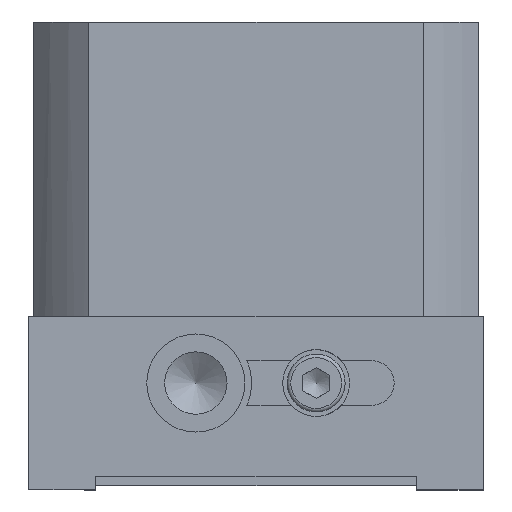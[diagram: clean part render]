
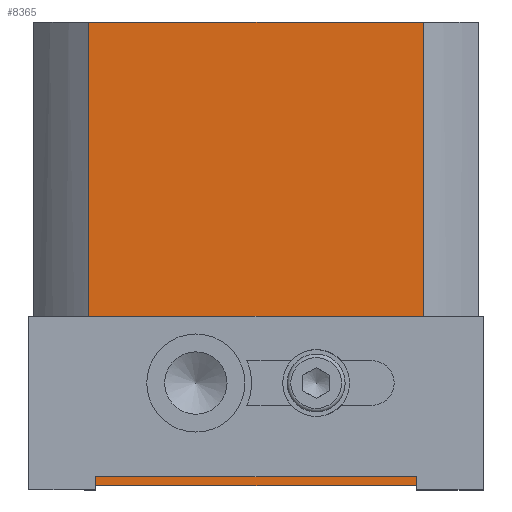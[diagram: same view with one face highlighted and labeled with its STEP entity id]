
A CAD part, left-side view. The second image highlights one B-rep face of the part: STEP entity #8365.
In plain terms, the highlighted planar face has unit normal (-1, 0, 0).
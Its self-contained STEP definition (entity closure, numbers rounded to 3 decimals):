
#1314=CARTESIAN_POINT('',(-50.,63.5,-70.));
#1315=VERTEX_POINT('',#1314);
#1316=CARTESIAN_POINT('',(-50.,63.5,-81.));
#1317=DIRECTION('',(-1.0,0.0,0.0));
#1318=DIRECTION('',(0.0,1.0,0.0));
#1319=AXIS2_PLACEMENT_3D('',#1316,#1317,#1318);
#1320=CIRCLE('',#1319,11.0);
#1321=EDGE_CURVE('',#1315,#1315,#1320,.T.);
#5997=CARTESIAN_POINT('',(-50.,36.5,-70.));
#5998=VERTEX_POINT('',#5997);
#5999=CARTESIAN_POINT('',(-50.,36.5,-81.));
#6000=DIRECTION('',(-1.0,0.0,0.0));
#6001=DIRECTION('',(0.0,-1.0,0.0));
#6002=AXIS2_PLACEMENT_3D('',#5999,#6000,#6001);
#6003=CIRCLE('',#6002,11.0);
#6004=EDGE_CURVE('',#5998,#5998,#6003,.T.);
#6679=CARTESIAN_POINT('',(-50.0,12.5,-104.0));
#6680=VERTEX_POINT('',#6679);
#6688=CARTESIAN_POINT('',(-50.0,87.5,-104.0));
#6689=VERTEX_POINT('',#6688);
#6690=CARTESIAN_POINT('',(-50.,87.5,-104.0));
#6691=DIRECTION('',(0.0,-1.0,0.0));
#6692=VECTOR('',#6691,75.);
#6693=LINE('',#6690,#6692);
#6694=EDGE_CURVE('',#6689,#6680,#6693,.T.);
#7365=CARTESIAN_POINT('',(-50.0,87.5,0.0));
#7366=VERTEX_POINT('',#7365);
#7374=CARTESIAN_POINT('',(-50.0,12.5,0.0));
#7375=VERTEX_POINT('',#7374);
#7376=CARTESIAN_POINT('',(-50.0,87.5,0.0));
#7377=DIRECTION('',(0.0,-1.0,0.0));
#7378=VECTOR('',#7377,75.0);
#7379=LINE('',#7376,#7378);
#7380=EDGE_CURVE('',#7366,#7375,#7379,.T.);
#8243=CARTESIAN_POINT('',(-50.0,12.5,0.0));
#8244=DIRECTION('',(0.0,0.0,-1.0));
#8245=VECTOR('',#8244,104.0);
#8246=LINE('',#8243,#8245);
#8247=EDGE_CURVE('',#7375,#6680,#8246,.T.);
#8335=CARTESIAN_POINT('',(-50.0,87.5,0.0));
#8336=DIRECTION('',(0.0,0.0,-1.0));
#8337=VECTOR('',#8336,104.0);
#8338=LINE('',#8335,#8337);
#8339=EDGE_CURVE('',#7366,#6689,#8338,.T.);
#8348=CARTESIAN_POINT('',(-50.0,87.5,0.0));
#8349=DIRECTION('',(-1.0,0.0,0.0));
#8350=DIRECTION('',(0.0,0.0,1.0));
#8351=AXIS2_PLACEMENT_3D('',#8348,#8349,#8350);
#8352=PLANE('',#8351);
#8353=ORIENTED_EDGE('',*,*,#8247,.F.);
#8354=ORIENTED_EDGE('',*,*,#7380,.F.);
#8355=ORIENTED_EDGE('',*,*,#8339,.T.);
#8356=ORIENTED_EDGE('',*,*,#6694,.T.);
#8357=EDGE_LOOP('',(#8353,#8354,#8355,#8356));
#8358=FACE_OUTER_BOUND('',#8357,.T.);
#8359=ORIENTED_EDGE('',*,*,#1321,.F.);
#8360=EDGE_LOOP('',(#8359));
#8361=FACE_BOUND('',#8360,.T.);
#8362=ORIENTED_EDGE('',*,*,#6004,.F.);
#8363=EDGE_LOOP('',(#8362));
#8364=FACE_BOUND('',#8363,.T.);
#8365=ADVANCED_FACE('',(#8358,#8361,#8364),#8352,.T.);
